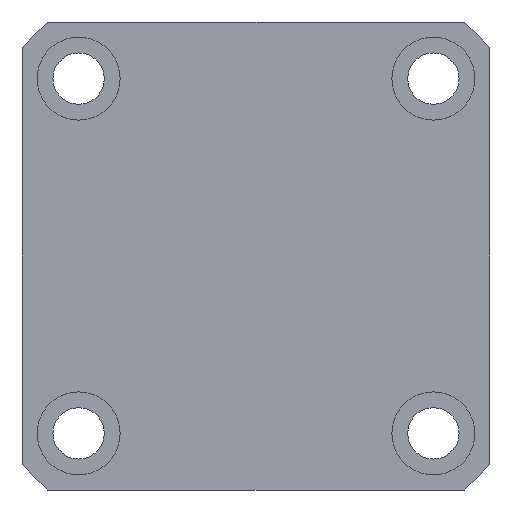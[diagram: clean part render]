
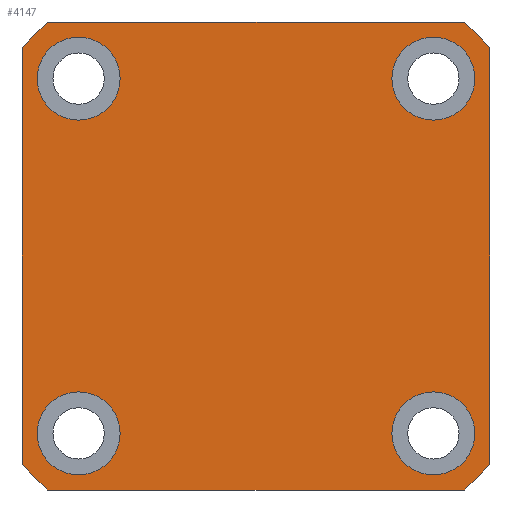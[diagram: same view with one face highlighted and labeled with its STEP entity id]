
A CAD part, left-side view. The second image highlights one B-rep face of the part: STEP entity #4147.
In plain terms, the highlighted planar face has unit normal (-1, 0, 0).
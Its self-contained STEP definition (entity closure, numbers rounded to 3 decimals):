
#4147=ADVANCED_FACE('',(#5062,#5063,#5064,#5065,#5066),#4693,.F.);
#4693=PLANE('',#13655);
#5062=FACE_BOUND('',#5276,.T.);
#5063=FACE_BOUND('',#5277,.T.);
#5064=FACE_BOUND('',#5278,.T.);
#5065=FACE_BOUND('',#5279,.T.);
#5066=FACE_BOUND('',#5280,.T.);
#5276=EDGE_LOOP('',(#6155,#6156,#6157,#6158,#6159,#6160,#6161,#6162));
#5277=EDGE_LOOP('',(#6163));
#5278=EDGE_LOOP('',(#6164));
#5279=EDGE_LOOP('',(#6165));
#5280=EDGE_LOOP('',(#6166));
#5914=CIRCLE('',#13562,5.5);
#5916=CIRCLE('',#13565,5.5);
#5918=CIRCLE('',#13568,5.5);
#5920=CIRCLE('',#13571,5.5);
#5965=CIRCLE('',#13651,41.5);
#5966=CIRCLE('',#13652,41.5);
#5967=CIRCLE('',#13653,41.5);
#5968=CIRCLE('',#13654,41.5);
#6155=ORIENTED_EDGE('',*,*,#10227,.F.);
#6156=ORIENTED_EDGE('',*,*,#10228,.F.);
#6157=ORIENTED_EDGE('',*,*,#10229,.F.);
#6158=ORIENTED_EDGE('',*,*,#10230,.F.);
#6159=ORIENTED_EDGE('',*,*,#10231,.F.);
#6160=ORIENTED_EDGE('',*,*,#10125,.F.);
#6161=ORIENTED_EDGE('',*,*,#10232,.F.);
#6162=ORIENTED_EDGE('',*,*,#10225,.F.);
#6163=ORIENTED_EDGE('',*,*,#10127,.F.);
#6164=ORIENTED_EDGE('',*,*,#10129,.F.);
#6165=ORIENTED_EDGE('',*,*,#10131,.F.);
#6166=ORIENTED_EDGE('',*,*,#10133,.F.);
#9075=VERTEX_POINT('',#16223);
#9076=VERTEX_POINT('',#16225);
#9077=VERTEX_POINT('',#16229);
#9079=VERTEX_POINT('',#16234);
#9081=VERTEX_POINT('',#16239);
#9083=VERTEX_POINT('',#16244);
#9163=VERTEX_POINT('',#17094);
#9164=VERTEX_POINT('',#17096);
#9165=VERTEX_POINT('',#17100);
#9166=VERTEX_POINT('',#17102);
#9167=VERTEX_POINT('',#17104);
#9168=VERTEX_POINT('',#17106);
#10125=EDGE_CURVE('',#9075,#9076,#11639,.T.);
#10127=EDGE_CURVE('',#9077,#9077,#5914,.T.);
#10129=EDGE_CURVE('',#9079,#9079,#5916,.T.);
#10131=EDGE_CURVE('',#9081,#9081,#5918,.T.);
#10133=EDGE_CURVE('',#9083,#9083,#5920,.T.);
#10225=EDGE_CURVE('',#9163,#9164,#11647,.T.);
#10227=EDGE_CURVE('',#9165,#9163,#5965,.T.);
#10228=EDGE_CURVE('',#9166,#9165,#11649,.T.);
#10229=EDGE_CURVE('',#9167,#9166,#5966,.T.);
#10230=EDGE_CURVE('',#9168,#9167,#11650,.T.);
#10231=EDGE_CURVE('',#9076,#9168,#5967,.T.);
#10232=EDGE_CURVE('',#9164,#9075,#5968,.T.);
#11639=LINE('',#16224,#12542);
#11647=LINE('',#17095,#12550);
#11649=LINE('',#17101,#12552);
#11650=LINE('',#17105,#12553);
#12542=VECTOR('',#14114,1.);
#12550=VECTOR('',#14300,1.);
#12552=VECTOR('',#14306,1.);
#12553=VECTOR('',#14309,1.);
#13562=AXIS2_PLACEMENT_3D('',#16228,#14118,#14119);
#13565=AXIS2_PLACEMENT_3D('',#16233,#14124,#14125);
#13568=AXIS2_PLACEMENT_3D('',#16238,#14130,#14131);
#13571=AXIS2_PLACEMENT_3D('',#16243,#14136,#14137);
#13651=AXIS2_PLACEMENT_3D('',#17099,#14304,#14305);
#13652=AXIS2_PLACEMENT_3D('',#17103,#14307,#14308);
#13653=AXIS2_PLACEMENT_3D('',#17107,#14310,#14311);
#13654=AXIS2_PLACEMENT_3D('',#17108,#14312,#14313);
#13655=AXIS2_PLACEMENT_3D('',#17109,#14314,#14315);
#14114=DIRECTION('',(0.,1.,0.));
#14118=DIRECTION('',(-1.,0.,0.));
#14119=DIRECTION('',(0.,0.,1.));
#14124=DIRECTION('',(-1.,0.,0.));
#14125=DIRECTION('',(0.,0.,1.));
#14130=DIRECTION('',(-1.,0.,0.));
#14131=DIRECTION('',(0.,0.,1.));
#14136=DIRECTION('',(-1.,0.,0.));
#14137=DIRECTION('',(0.,0.,1.));
#14300=DIRECTION('',(0.,0.,-1.));
#14304=DIRECTION('',(1.,0.,0.));
#14305=DIRECTION('',(0.,0.,-1.));
#14306=DIRECTION('',(0.,-1.,0.));
#14307=DIRECTION('',(1.,0.,0.));
#14308=DIRECTION('',(0.,0.,-1.));
#14309=DIRECTION('',(0.,0.,1.));
#14310=DIRECTION('',(1.,0.,0.));
#14311=DIRECTION('',(0.,0.,-1.));
#14312=DIRECTION('',(1.,0.,0.));
#14313=DIRECTION('',(0.,0.,-1.));
#14314=DIRECTION('',(1.,0.,0.));
#14315=DIRECTION('',(0.,0.,1.));
#16223=CARTESIAN_POINT('',(0.,3.409,-62.));
#16224=CARTESIAN_POINT('',(0.,31.,-62.));
#16225=CARTESIAN_POINT('',(0.,58.591,-62.));
#16228=CARTESIAN_POINT('',(0.,7.5,-54.5));
#16229=CARTESIAN_POINT('',(0.,7.5,-49.));
#16233=CARTESIAN_POINT('',(0.,7.5,-7.5));
#16234=CARTESIAN_POINT('',(0.,7.5,-2.));
#16238=CARTESIAN_POINT('',(0.,54.5,-7.5));
#16239=CARTESIAN_POINT('',(0.,54.5,-2.));
#16243=CARTESIAN_POINT('',(0.,54.5,-54.5));
#16244=CARTESIAN_POINT('',(0.,54.5,-49.));
#17094=CARTESIAN_POINT('',(0.,0.,-3.409));
#17095=CARTESIAN_POINT('',(0.,0.,-6.));
#17096=CARTESIAN_POINT('',(0.,0.,-58.591));
#17099=CARTESIAN_POINT('',(0.,31.,-31.));
#17100=CARTESIAN_POINT('',(0.,3.409,0.));
#17101=CARTESIAN_POINT('',(0.,31.,0.));
#17102=CARTESIAN_POINT('',(0.,58.591,0.));
#17103=CARTESIAN_POINT('',(0.,31.,-31.));
#17104=CARTESIAN_POINT('',(0.,62.,-3.409));
#17105=CARTESIAN_POINT('',(0.,62.,-31.));
#17106=CARTESIAN_POINT('',(0.,62.,-58.591));
#17107=CARTESIAN_POINT('',(0.,31.,-31.));
#17108=CARTESIAN_POINT('',(0.,31.,-31.));
#17109=CARTESIAN_POINT('',(0.,31.,-31.));
